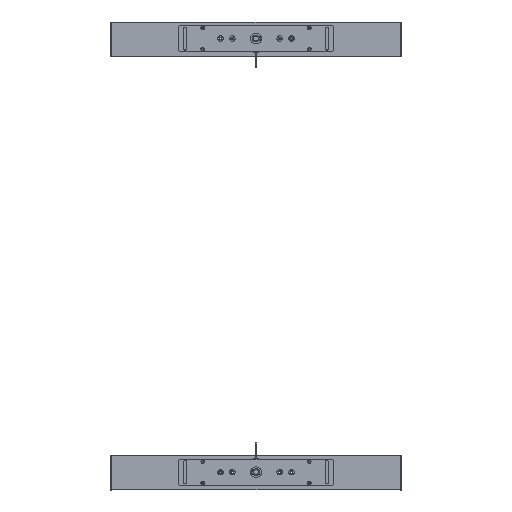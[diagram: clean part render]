
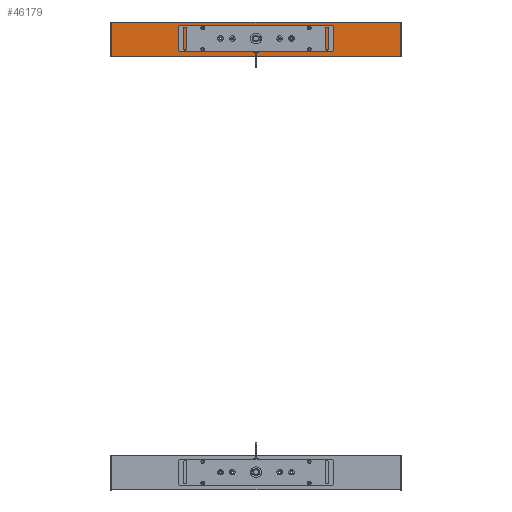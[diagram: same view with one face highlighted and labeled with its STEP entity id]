
A CAD part, top view. The second image highlights one B-rep face of the part: STEP entity #46179.
In plain terms, the highlighted planar face has unit normal (0, 0, 1).
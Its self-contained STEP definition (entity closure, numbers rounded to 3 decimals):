
#3499=CIRCLE('',#60500,3.75);
#3500=CIRCLE('',#60501,3.75);
#3501=CIRCLE('',#60502,3.75);
#3502=CIRCLE('',#60503,3.75);
#3503=CIRCLE('',#60504,3.75);
#3504=CIRCLE('',#60505,3.75);
#3505=CIRCLE('',#60506,3.75);
#3506=CIRCLE('',#60507,3.75);
#16507=ORIENTED_EDGE('',*,*,#23577,.F.);
#16508=ORIENTED_EDGE('',*,*,#23578,.F.);
#16509=ORIENTED_EDGE('',*,*,#23579,.F.);
#16510=ORIENTED_EDGE('',*,*,#23580,.F.);
#16511=ORIENTED_EDGE('',*,*,#23581,.F.);
#16512=ORIENTED_EDGE('',*,*,#23582,.F.);
#16513=ORIENTED_EDGE('',*,*,#23583,.F.);
#16514=ORIENTED_EDGE('',*,*,#23584,.F.);
#16515=ORIENTED_EDGE('',*,*,#23585,.F.);
#16516=ORIENTED_EDGE('',*,*,#23586,.T.);
#16517=ORIENTED_EDGE('',*,*,#23587,.T.);
#16518=ORIENTED_EDGE('',*,*,#23588,.T.);
#23577=EDGE_CURVE('',#28229,#28229,#3499,.T.);
#23578=EDGE_CURVE('',#28230,#28230,#3500,.T.);
#23579=EDGE_CURVE('',#28231,#28231,#3501,.T.);
#23580=EDGE_CURVE('',#28232,#28232,#3502,.T.);
#23581=EDGE_CURVE('',#28233,#28233,#3503,.T.);
#23582=EDGE_CURVE('',#28234,#28234,#3504,.T.);
#23583=EDGE_CURVE('',#28235,#28235,#3505,.T.);
#23584=EDGE_CURVE('',#28236,#28236,#3506,.T.);
#23585=EDGE_CURVE('',#28237,#28238,#32784,.T.);
#23586=EDGE_CURVE('',#28237,#28239,#32785,.T.);
#23587=EDGE_CURVE('',#28239,#28240,#32786,.T.);
#23588=EDGE_CURVE('',#28240,#28238,#32787,.F.);
#28229=VERTEX_POINT('',#87844);
#28230=VERTEX_POINT('',#87846);
#28231=VERTEX_POINT('',#87848);
#28232=VERTEX_POINT('',#87850);
#28233=VERTEX_POINT('',#87852);
#28234=VERTEX_POINT('',#87854);
#28235=VERTEX_POINT('',#87856);
#28236=VERTEX_POINT('',#87858);
#28237=VERTEX_POINT('',#87860);
#28238=VERTEX_POINT('',#87861);
#28239=VERTEX_POINT('',#87863);
#28240=VERTEX_POINT('',#87865);
#32784=LINE('',#87859,#37249);
#32785=LINE('',#87862,#37250);
#32786=LINE('',#87864,#37251);
#32787=LINE('',#87866,#37252);
#37249=VECTOR('',#73482,1000.);
#37250=VECTOR('',#73483,1000.);
#37251=VECTOR('',#73484,1000.);
#37252=VECTOR('',#73485,1000.);
#39752=EDGE_LOOP('',(#16507));
#39753=EDGE_LOOP('',(#16508));
#39754=EDGE_LOOP('',(#16509));
#39755=EDGE_LOOP('',(#16510));
#39756=EDGE_LOOP('',(#16511));
#39757=EDGE_LOOP('',(#16512));
#39758=EDGE_LOOP('',(#16513));
#39759=EDGE_LOOP('',(#16514));
#39760=EDGE_LOOP('',(#16515,#16516,#16517,#16518));
#42370=FACE_BOUND('',#39752,.T.);
#42371=FACE_BOUND('',#39753,.T.);
#42372=FACE_BOUND('',#39754,.T.);
#42373=FACE_BOUND('',#39755,.T.);
#42374=FACE_BOUND('',#39756,.T.);
#42375=FACE_BOUND('',#39757,.T.);
#42376=FACE_BOUND('',#39758,.T.);
#42377=FACE_BOUND('',#39759,.T.);
#42378=FACE_BOUND('',#39760,.T.);
#43866=PLANE('',#60499);
#46179=ADVANCED_FACE('',(#42370,#42371,#42372,#42373,#42374,#42375,#42376,
#42377,#42378),#43866,.F.);
#60499=AXIS2_PLACEMENT_3D('',#87842,#73464,#73465);
#60500=AXIS2_PLACEMENT_3D('',#87843,#73466,#73467);
#60501=AXIS2_PLACEMENT_3D('',#87845,#73468,#73469);
#60502=AXIS2_PLACEMENT_3D('',#87847,#73470,#73471);
#60503=AXIS2_PLACEMENT_3D('',#87849,#73472,#73473);
#60504=AXIS2_PLACEMENT_3D('',#87851,#73474,#73475);
#60505=AXIS2_PLACEMENT_3D('',#87853,#73476,#73477);
#60506=AXIS2_PLACEMENT_3D('',#87855,#73478,#73479);
#60507=AXIS2_PLACEMENT_3D('',#87857,#73480,#73481);
#73464=DIRECTION('',(0.,0.,-1.));
#73465=DIRECTION('',(-1.,0.,0.));
#73466=DIRECTION('',(0.,0.,1.));
#73467=DIRECTION('',(1.,0.,0.));
#73468=DIRECTION('',(0.,0.,1.));
#73469=DIRECTION('',(1.,0.,0.));
#73470=DIRECTION('',(0.,0.,1.));
#73471=DIRECTION('',(1.,0.,0.));
#73472=DIRECTION('',(0.,0.,1.));
#73473=DIRECTION('',(1.,0.,0.));
#73474=DIRECTION('',(0.,0.,1.));
#73475=DIRECTION('',(1.,0.,0.));
#73476=DIRECTION('',(0.,0.,1.));
#73477=DIRECTION('',(1.,0.,0.));
#73478=DIRECTION('',(0.,0.,1.));
#73479=DIRECTION('',(1.,0.,0.));
#73480=DIRECTION('',(0.,0.,1.));
#73481=DIRECTION('',(1.,0.,0.));
#73482=DIRECTION('',(-1.,0.,0.));
#73483=DIRECTION('',(0.,1.,0.));
#73484=DIRECTION('',(-1.,0.,0.));
#73485=DIRECTION('',(0.,1.,0.));
#87842=CARTESIAN_POINT('',(340.,-40.,0.));
#87843=CARTESIAN_POINT('',(107.5,17.5,0.));
#87844=CARTESIAN_POINT('',(111.25,17.5,0.));
#87845=CARTESIAN_POINT('',(107.5,-17.5,0.));
#87846=CARTESIAN_POINT('',(111.25,-17.5,0.));
#87847=CARTESIAN_POINT('',(-107.5,-17.5,0.));
#87848=CARTESIAN_POINT('',(-103.75,-17.5,0.));
#87849=CARTESIAN_POINT('',(-107.5,17.5,0.));
#87850=CARTESIAN_POINT('',(-103.75,17.5,0.));
#87851=CARTESIAN_POINT('',(82.5,0.,0.));
#87852=CARTESIAN_POINT('',(86.25,0.,0.));
#87853=CARTESIAN_POINT('',(-82.5,0.,0.));
#87854=CARTESIAN_POINT('',(-78.75,0.,0.));
#87855=CARTESIAN_POINT('',(-55.,0.,0.));
#87856=CARTESIAN_POINT('',(-51.25,0.,0.));
#87857=CARTESIAN_POINT('',(55.,0.,0.));
#87858=CARTESIAN_POINT('',(58.75,0.,0.));
#87859=CARTESIAN_POINT('',(340.,-40.,0.));
#87860=CARTESIAN_POINT('',(336.,-40.,0.));
#87861=CARTESIAN_POINT('',(-336.,-40.,0.));
#87862=CARTESIAN_POINT('',(336.,-40.,0.));
#87863=CARTESIAN_POINT('',(336.,40.,0.));
#87864=CARTESIAN_POINT('',(340.,40.,0.));
#87865=CARTESIAN_POINT('',(-336.,40.,0.));
#87866=CARTESIAN_POINT('',(-336.,-40.,0.));
